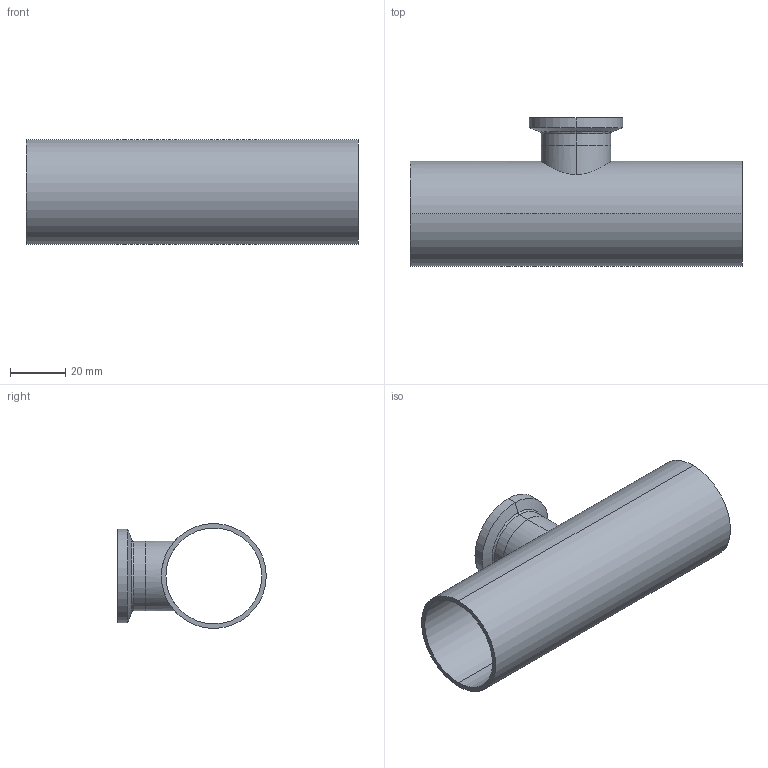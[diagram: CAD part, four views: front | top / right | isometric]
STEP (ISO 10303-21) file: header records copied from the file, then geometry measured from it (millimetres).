
FILE_DESCRIPTION (( 'STEP AP214' ), '1' );
FILE_NAME ('TE7RWWCS6L1.5x1.0-..Type A.STEP', '2016-05-23T11:08:27', ( 'eran' ), ( '' ), 'SwSTEP 2.0', 'SolidWorks 2016', '' );
FILE_SCHEMA (( 'AUTOMOTIVE_DESIGN' ));
Length unit declared in the file: millimetre
Products named in the file (1): TE7RWWCS6L1.5x1.0-..Type A
Bounding box: 120.6 x 53.95 x 38.1 mm (x, y, z)
Volume: 25600.3 mm3; surface area: 31150.1 mm2
Topology: 2 solids, 2 shells, 34 faces, 70 edges, 42 vertices
Faces by surface type: cylinder 16, bspline 8, plane 6, cone 4
Entity records: 1237 total; most frequent: CARTESIAN_POINT 477, DIRECTION 158, ORIENTED_EDGE 140, EDGE_CURVE 70, AXIS2_PLACEMENT_3D 69, CIRCLE 42, VERTEX_POINT 42, EDGE_LOOP 42
